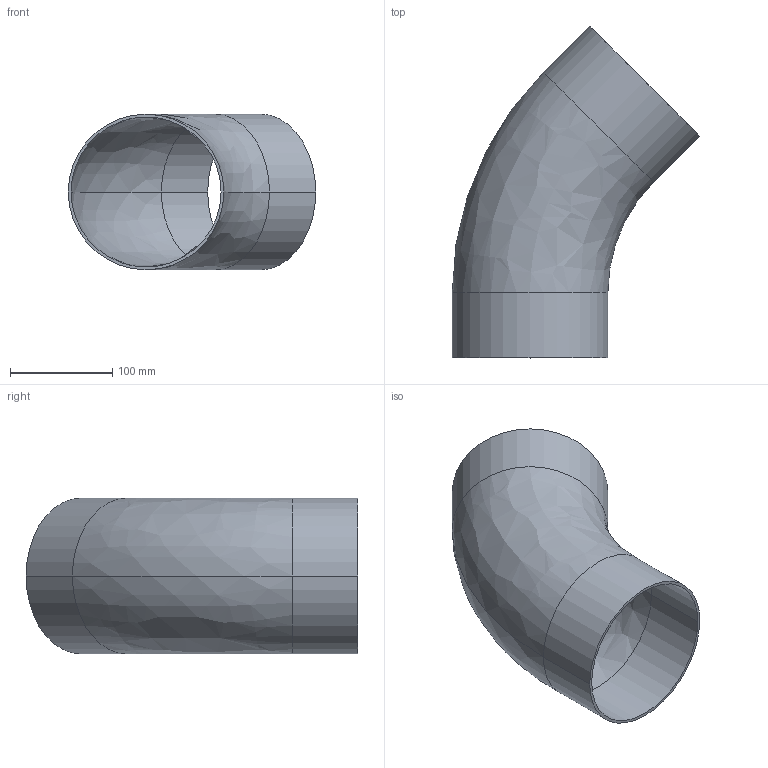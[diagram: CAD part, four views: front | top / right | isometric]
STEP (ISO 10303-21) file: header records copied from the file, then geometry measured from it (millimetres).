
FILE_DESCRIPTION (( 'STEP AP214' ), '1' );
FILE_NAME ('TE2KS6L6.0-...STEP', '2016-05-22T06:55:03', ( 'eran' ), ( '' ), 'SwSTEP 2.0', 'SolidWorks 2016', '' );
FILE_SCHEMA (( 'AUTOMOTIVE_DESIGN' ));
Length unit declared in the file: millimetre
Products named in the file (1): TE2KS6L6.0-..
Bounding box: 242.37 x 324.97 x 152.4 mm (x, y, z)
Volume: 400742.6 mm3; surface area: 291948.9 mm2
Topology: 1 solids, 1 shells, 14 faces, 28 edges, 16 vertices
Faces by surface type: cylinder 8, bspline 4, plane 2
Entity records: 450 total; most frequent: CARTESIAN_POINT 119, DIRECTION 70, ORIENTED_EDGE 56, AXIS2_PLACEMENT_3D 31, EDGE_CURVE 28, CIRCLE 20, EDGE_LOOP 16, VERTEX_POINT 16
